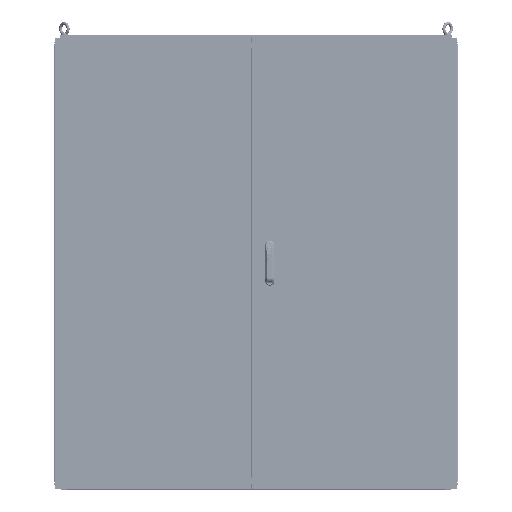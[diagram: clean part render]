
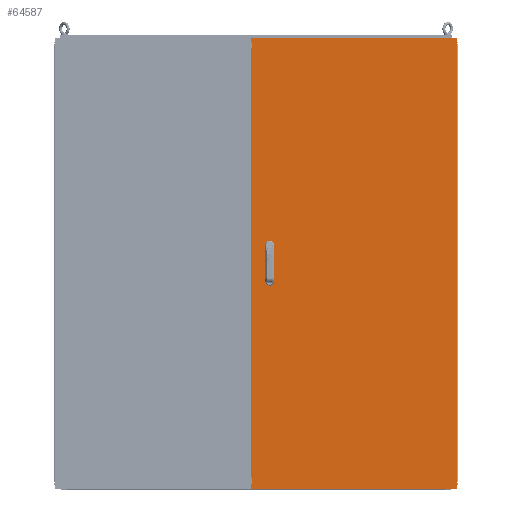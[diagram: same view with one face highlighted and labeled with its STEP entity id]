
A CAD part, front view. The second image highlights one B-rep face of the part: STEP entity #64587.
In plain terms, the highlighted planar face has unit normal (0, -1, 0).
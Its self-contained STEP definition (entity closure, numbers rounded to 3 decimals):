
#1755=PLANE('',#70627);
#5960=ORIENTED_EDGE('',*,*,#23500,.T.);
#5961=ORIENTED_EDGE('',*,*,#23501,.T.);
#5962=ORIENTED_EDGE('',*,*,#23502,.T.);
#5963=ORIENTED_EDGE('',*,*,#23503,.T.);
#5964=ORIENTED_EDGE('',*,*,#23504,.T.);
#5965=ORIENTED_EDGE('',*,*,#23505,.T.);
#5966=ORIENTED_EDGE('',*,*,#23506,.T.);
#5967=ORIENTED_EDGE('',*,*,#23507,.T.);
#5968=ORIENTED_EDGE('',*,*,#23473,.F.);
#5969=ORIENTED_EDGE('',*,*,#23482,.F.);
#5970=ORIENTED_EDGE('',*,*,#23497,.F.);
#5971=ORIENTED_EDGE('',*,*,#23479,.F.);
#23473=EDGE_CURVE('',#32264,#32265,#38507,.T.);
#23479=EDGE_CURVE('',#32265,#32270,#38511,.T.);
#23482=EDGE_CURVE('',#32272,#32264,#38514,.T.);
#23497=EDGE_CURVE('',#32270,#32272,#38529,.T.);
#23500=EDGE_CURVE('',#32282,#32283,#38532,.T.);
#23501=EDGE_CURVE('',#32283,#32284,#38533,.T.);
#23502=EDGE_CURVE('',#32284,#32285,#38534,.T.);
#23503=EDGE_CURVE('',#32285,#32282,#38535,.T.);
#23504=EDGE_CURVE('',#32286,#32287,#38536,.T.);
#23505=EDGE_CURVE('',#32287,#32288,#38537,.T.);
#23506=EDGE_CURVE('',#32288,#32289,#38538,.T.);
#23507=EDGE_CURVE('',#32289,#32286,#38539,.T.);
#32264=VERTEX_POINT('',#93452);
#32265=VERTEX_POINT('',#93454);
#32270=VERTEX_POINT('',#93472);
#32272=VERTEX_POINT('',#93477);
#32282=VERTEX_POINT('',#93533);
#32283=VERTEX_POINT('',#93534);
#32284=VERTEX_POINT('',#93536);
#32285=VERTEX_POINT('',#93538);
#32286=VERTEX_POINT('',#93541);
#32287=VERTEX_POINT('',#93542);
#32288=VERTEX_POINT('',#93544);
#32289=VERTEX_POINT('',#93546);
#38507=LINE('',#93453,#45417);
#38511=LINE('',#93471,#45421);
#38514=LINE('',#93478,#45424);
#38529=LINE('',#93527,#45439);
#38532=LINE('',#93532,#45442);
#38533=LINE('',#93535,#45443);
#38534=LINE('',#93537,#45444);
#38535=LINE('',#93539,#45445);
#38536=LINE('',#93540,#45446);
#38537=LINE('',#93543,#45447);
#38538=LINE('',#93545,#45448);
#38539=LINE('',#93547,#45449);
#45417=VECTOR('',#75987,1000.);
#45421=VECTOR('',#75993,1000.);
#45424=VECTOR('',#75998,1000.);
#45439=VECTOR('',#76023,1000.);
#45442=VECTOR('',#76030,1000.);
#45443=VECTOR('',#76031,1000.);
#45444=VECTOR('',#76032,1000.);
#45445=VECTOR('',#76033,1000.);
#45446=VECTOR('',#76034,1000.);
#45447=VECTOR('',#76035,1000.);
#45448=VECTOR('',#76036,1000.);
#45449=VECTOR('',#76037,1000.);
#52337=EDGE_LOOP('',(#5960,#5961,#5962,#5963));
#52338=EDGE_LOOP('',(#5964,#5965,#5966,#5967));
#52339=EDGE_LOOP('',(#5968,#5969,#5970,#5971));
#58068=FACE_BOUND('',#52337,.T.);
#58069=FACE_BOUND('',#52338,.T.);
#58070=FACE_BOUND('',#52339,.T.);
#64587=ADVANCED_FACE('',(#58068,#58069,#58070),#1755,.F.);
#70627=AXIS2_PLACEMENT_3D('',#93531,#76028,#76029);
#75987=DIRECTION('',(0.,0.,1.));
#75993=DIRECTION('',(1.,0.,0.));
#75998=DIRECTION('',(-1.,0.,0.));
#76023=DIRECTION('',(0.,0.,-1.));
#76028=DIRECTION('',(0.,1.,0.));
#76029=DIRECTION('',(1.,0.,0.));
#76030=DIRECTION('',(-1.,0.,0.));
#76031=DIRECTION('',(0.,0.,1.));
#76032=DIRECTION('',(1.,0.,0.));
#76033=DIRECTION('',(0.,0.,-1.));
#76034=DIRECTION('',(-1.,0.,0.));
#76035=DIRECTION('',(0.,0.,1.));
#76036=DIRECTION('',(1.,0.,0.));
#76037=DIRECTION('',(0.,0.,-1.));
#93452=CARTESIAN_POINT('',(-37.711,-13.,-895.));
#93453=CARTESIAN_POINT('',(-37.711,-13.,-895.));
#93454=CARTESIAN_POINT('',(-37.711,-13.,895.));
#93471=CARTESIAN_POINT('',(-37.711,-13.,895.));
#93472=CARTESIAN_POINT('',(775.8,-13.,895.));
#93477=CARTESIAN_POINT('',(775.8,-13.,-895.));
#93478=CARTESIAN_POINT('',(775.8,-13.,-895.));
#93527=CARTESIAN_POINT('',(775.8,-13.,895.));
#93531=CARTESIAN_POINT('',(0.,-13.,0.));
#93532=CARTESIAN_POINT('',(44.789,-13.,-75.));
#93533=CARTESIAN_POINT('',(44.789,-13.,-75.));
#93534=CARTESIAN_POINT('',(19.789,-13.,-75.));
#93535=CARTESIAN_POINT('',(19.789,-13.,-75.));
#93536=CARTESIAN_POINT('',(19.789,-13.,-25.));
#93537=CARTESIAN_POINT('',(19.789,-13.,-25.));
#93538=CARTESIAN_POINT('',(44.789,-13.,-25.));
#93539=CARTESIAN_POINT('',(44.789,-13.,-25.));
#93540=CARTESIAN_POINT('',(44.789,-13.,25.));
#93541=CARTESIAN_POINT('',(44.789,-13.,25.));
#93542=CARTESIAN_POINT('',(19.789,-13.,25.));
#93543=CARTESIAN_POINT('',(19.789,-13.,25.));
#93544=CARTESIAN_POINT('',(19.789,-13.,75.));
#93545=CARTESIAN_POINT('',(19.789,-13.,75.));
#93546=CARTESIAN_POINT('',(44.789,-13.,75.));
#93547=CARTESIAN_POINT('',(44.789,-13.,75.));
